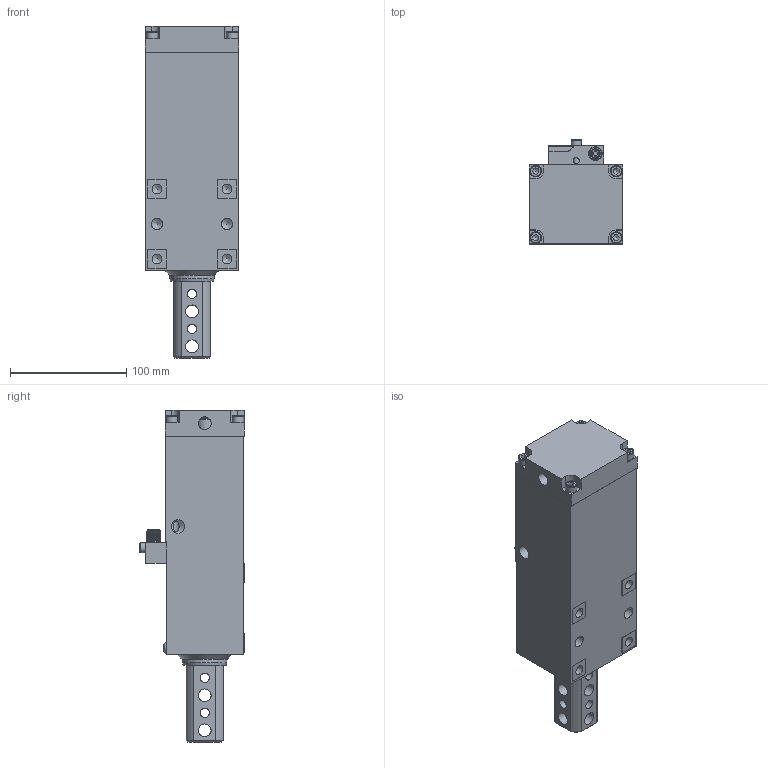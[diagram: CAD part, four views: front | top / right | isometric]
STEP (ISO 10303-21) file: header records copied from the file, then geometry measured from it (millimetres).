
FILE_DESCRIPTION(/* description */ (''),/* implementation_level */ '2;1');
FILE_NAME(/* name */ 'M:\cad\PRODUCT\LSA\LSA - 85\STEP\LSA-85\50 mm Stroke\LSA-85 50 mm Stroke - Retract.stp',/* time_stamp */ '2018-06-21T12:57:01-04:00',/* author */ ('Tyler'),/* organization */ (''),/* preprocessor_version */ 'ST-DEVELOPER v17',/* originating_system */ 'Autodesk Inventor 2019',/* authorisation */ '');
FILE_SCHEMA (('AUTOMOTIVE_DESIGN { 1 0 10303 214 3 1 1 }'));
Length unit declared in the file: inch
Products named in the file (1): LSA-85 w_ New Sensor Package - Stripped_Substitute_1
Bounding box: 80.01 x 89.81 x 285.08 mm (x, y, z)
Volume: 882268.7 mm3; surface area: 174991.5 mm2
Topology: 2 solids, 2 shells, 431 faces, 1261 edges, 849 vertices
Faces by surface type: plane 217, cylinder 147, cone 55, torus 11, bspline 1
Full cylindrical faces by diameter (mm): 1 x8, 2 x2, 3.264 x6, 3.302 x1, 5 x2, 5.3 x4, 6.35 x2, 8.014 x8, 8.3 x1, 8.382 x4, 8.5 x1, 9.169 x1, 9.652 x2, 10 x4, 10.02 x2, 10.16 x1, 10.312 x1, 10.5 x1, 10.998 x8, 11.112 x2, 11.455 x2, 11.76 x1, 11.811 x1, 12 x1, 15.875 x2, 17.78 x1, 31.75 x1, 38.087 x1, 38.1 x3, 44.501 x1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
Entity records: 15388 total; most frequent: CARTESIAN_POINT 3047, DIRECTION 2557, ORIENTED_EDGE 2494, EDGE_CURVE 1247, AXIS2_PLACEMENT_3D 964, VERTEX_POINT 849, LINE 629, VECTOR 629
